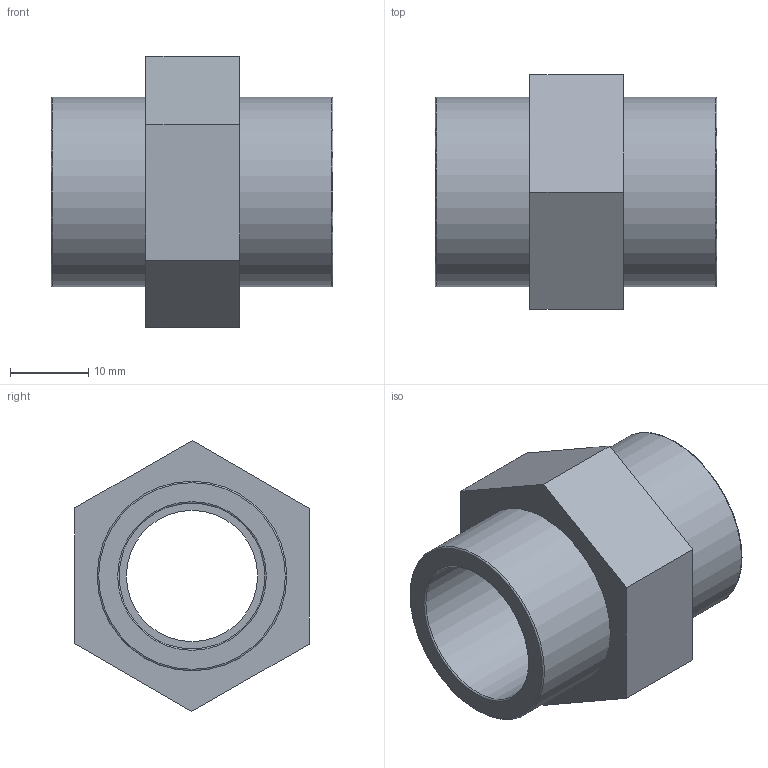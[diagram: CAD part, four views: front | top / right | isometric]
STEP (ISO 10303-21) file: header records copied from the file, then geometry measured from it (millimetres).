
FILE_DESCRIPTION(/* description */ ('PLASSON THREADED SOCKET PVC 1/2"'),/* implementation_level */ '2;1');
FILE_NAME(/* name */ 'C:\Dropbox\KIMPROJECTS-Inventor\99-16-3568-Processing\PVC Catalog 2017\050101\050101005.ipt.stp',/* time_stamp */ '2017-12-07T15:51:38+02:00',/* author */ ('KIM'),/* organization */ (''),/* preprocessor_version */ 'ST-DEVELOPER v15.6',/* originating_system */ 'Autodesk Inventor 2015',/* authorisation */ '');
FILE_SCHEMA (('AUTOMOTIVE_DESIGN { 1 0 10303 214 3 1 1 }'));
Length unit declared in the file: millimetre
Products named in the file (1): 050101005
Bounding box: 36 x 30.05 x 34.64 mm (x, y, z)
Volume: 10697.8 mm3; surface area: 6264.3 mm2
Topology: 1 solids, 1 shells, 21 faces, 41 edges, 26 vertices
Faces by surface type: plane 12, cylinder 5, torus 4
Full cylindrical faces by diameter (mm): 16.768 x1, 18.631 x2, 24.22 x2
Entity records: 520 total; most frequent: DIRECTION 90, CARTESIAN_POINT 80, ORIENTED_EDGE 64, EDGE_LOOP 36, AXIS2_PLACEMENT_3D 36, EDGE_CURVE 32, VERTEX_POINT 26, FACE_OUTER_BOUND 21
